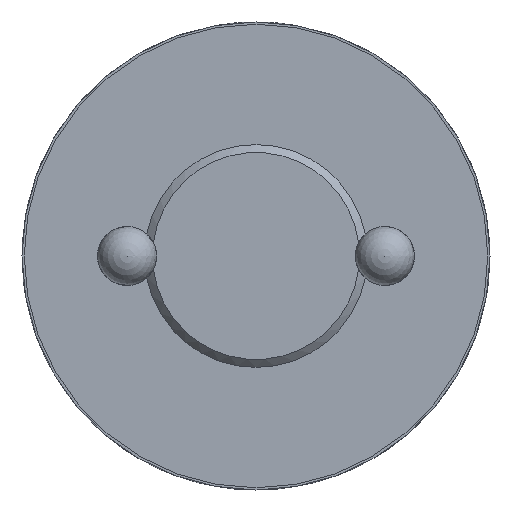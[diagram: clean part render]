
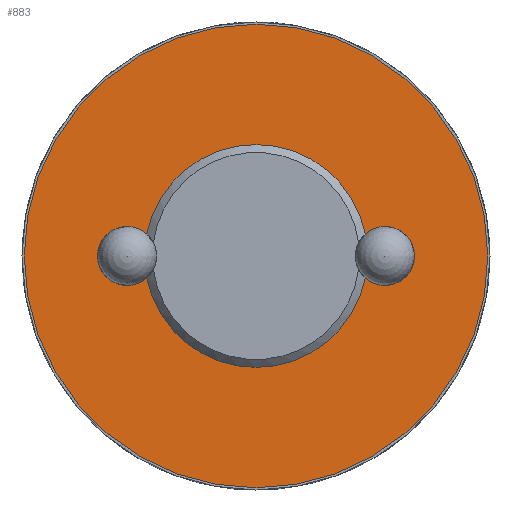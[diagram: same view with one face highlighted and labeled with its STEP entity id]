
A CAD part, left-side view. The second image highlights one B-rep face of the part: STEP entity #883.
In plain terms, the highlighted planar face has unit normal (-1, 0, 0).
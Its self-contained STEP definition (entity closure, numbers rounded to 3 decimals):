
#43=PLANE('',#965);
#121=CIRCLE('',#961,5.);
#122=CIRCLE('',#963,10.4);
#124=CIRCLE('',#966,5.);
#125=CIRCLE('',#967,1.33);
#126=CIRCLE('',#968,1.33);
#220=ORIENTED_EDGE('',*,*,#456,.F.);
#221=ORIENTED_EDGE('',*,*,#457,.T.);
#222=ORIENTED_EDGE('',*,*,#445,.F.);
#223=ORIENTED_EDGE('',*,*,#458,.T.);
#224=ORIENTED_EDGE('',*,*,#454,.T.);
#445=EDGE_CURVE('',#567,#568,#121,.T.);
#454=EDGE_CURVE('',#576,#576,#122,.T.);
#456=EDGE_CURVE('',#578,#579,#124,.T.);
#457=EDGE_CURVE('',#578,#568,#125,.T.);
#458=EDGE_CURVE('',#567,#579,#126,.T.);
#567=VERTEX_POINT('',#1338);
#568=VERTEX_POINT('',#1340);
#576=VERTEX_POINT('',#1370);
#578=VERTEX_POINT('',#1375);
#579=VERTEX_POINT('',#1376);
#717=EDGE_LOOP('',(#220,#221,#222,#223));
#718=EDGE_LOOP('',(#224));
#793=FACE_BOUND('',#717,.T.);
#794=FACE_BOUND('',#718,.T.);
#883=ADVANCED_FACE('',(#793,#794),#43,.F.);
#961=AXIS2_PLACEMENT_3D('',#1339,#1079,#1080);
#963=AXIS2_PLACEMENT_3D('',#1369,#1087,#1088);
#965=AXIS2_PLACEMENT_3D('',#1373,#1091,#1092);
#966=AXIS2_PLACEMENT_3D('',#1374,#1093,#1094);
#967=AXIS2_PLACEMENT_3D('',#1377,#1095,#1096);
#968=AXIS2_PLACEMENT_3D('',#1378,#1097,#1098);
#1079=DIRECTION('',(-1.,0.,0.));
#1080=DIRECTION('',(0.,0.,1.));
#1087=DIRECTION('',(-1.,0.,0.));
#1088=DIRECTION('',(0.,0.,1.));
#1091=DIRECTION('',(1.,0.,0.));
#1092=DIRECTION('',(0.,0.,-1.));
#1093=DIRECTION('',(-1.,0.,0.));
#1094=DIRECTION('',(0.,0.,1.));
#1095=DIRECTION('',(1.,0.,0.));
#1096=DIRECTION('',(0.,-1.,0.));
#1097=DIRECTION('',(1.,0.,0.));
#1098=DIRECTION('',(0.,1.,0.));
#1338=CARTESIAN_POINT('',(-16.5,-4.9,0.993));
#1339=CARTESIAN_POINT('',(-16.5,0.,0.));
#1340=CARTESIAN_POINT('',(-16.5,4.9,0.993));
#1369=CARTESIAN_POINT('',(-16.5,0.,0.));
#1370=CARTESIAN_POINT('',(-16.5,0.,10.4));
#1373=CARTESIAN_POINT('',(-16.5,10.4,0.));
#1374=CARTESIAN_POINT('',(-16.5,0.,0.));
#1375=CARTESIAN_POINT('',(-16.5,4.9,-0.993));
#1376=CARTESIAN_POINT('',(-16.5,-4.9,-0.993));
#1377=CARTESIAN_POINT('',(-16.5,5.785,0.));
#1378=CARTESIAN_POINT('',(-16.5,-5.785,0.));
